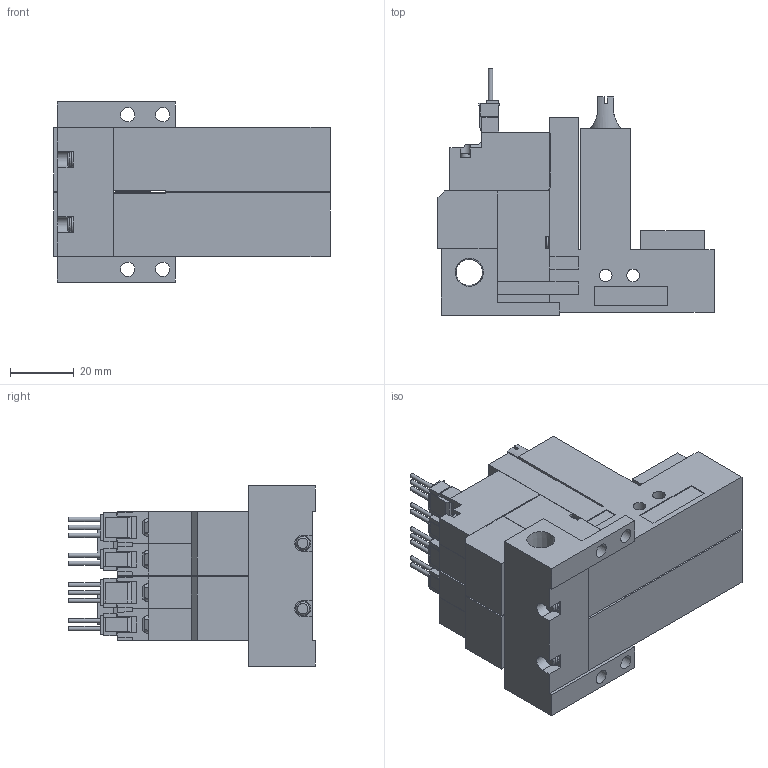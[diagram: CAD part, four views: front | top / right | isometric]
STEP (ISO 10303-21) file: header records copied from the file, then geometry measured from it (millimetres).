
FILE_DESCRIPTION(('STEP AP203'),'1');
FILE_NAME('ZL5WLR202.stp','2025-02-18T06:25:23',(' '),(' '),'Spatial InterOp 3D',' ',' ');
FILE_SCHEMA(('CONFIG_CONTROL_DESIGN'));
Length unit declared in the file: millimetre
Products named in the file (5): BMC22M※※※※ZL5WLR202; Solenoid valve W; Pressure sensor ZL; Unit L; Base MR20R
Assembly tree (7 placements, depth 2):
  BMC22M※※※※ZL5WLR202
    Solenoid valve W  x2
    Pressure sensor ZL  x2
    Unit L  x2
    Base MR20R
Bounding box: 86.6 x 77.45 x 56.5 mm (x, y, z)
Volume: 159125.7 mm3; surface area: 46390.8 mm2
Topology: 7 solids, 7 shells, 675 faces, 1835 edges, 1212 vertices
Faces by surface type: plane 578, cylinder 75, cone 16, torus 6
Full cylindrical faces by diameter (mm): 1.4 x10, 2.5 x2, 3 x8, 3.5 x8, 3.6 x2, 4 x4, 4.134 x2, 4.5 x4, 5.2 x2, 6 x2, 6.6 x2, 8.279 x1
Entity records: 11389 total; most frequent: CARTESIAN_POINT 2107, ORIENTED_EDGE 1834, DIRECTION 1793, EDGE_CURVE 917, LINE 775, VECTOR 775, VERTEX_POINT 633, AXIS2_PLACEMENT_3D 509
